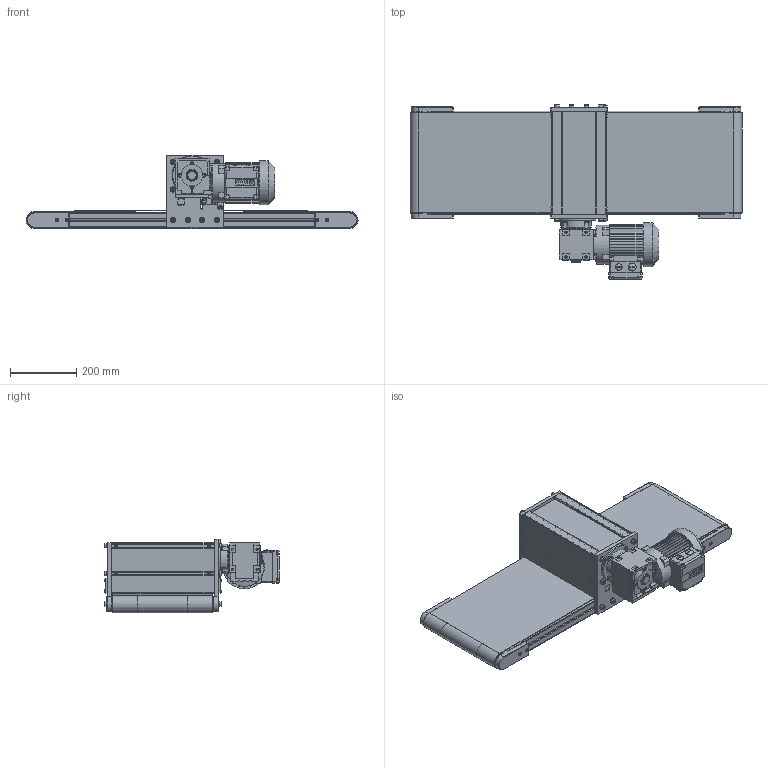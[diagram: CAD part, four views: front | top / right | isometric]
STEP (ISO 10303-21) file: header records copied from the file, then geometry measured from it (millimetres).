
FILE_DESCRIPTION (( 'STEP AP214' ), '1' );
FILE_NAME ('TB52 300X1000 INTERMEDIAIRE SEW.STEP', '2022-10-10T13:04:50', ( '' ), ( '' ), 'SwSTEP 2.0', 'SolidWorks 2022', '' );
FILE_SCHEMA (( 'AUTOMOTIVE_DESIGN' ));
Length unit declared in the file: millimetre
Products named in the file (30): 980-005WAF20; BHC_910-158; CHC THE_910-228; RONDELLE_910-110; TH_910-167; 980-073; 983-001; 982-000; CHC THE_910-053H; WAF20DR63M4 à droite; 905-020; 980-062C; 980-000; CHC THE_910-065H; INTERMEDIAIRE WAF20 TB50; CHC M8X25 + RP8; TUBE TB50 LISSE_980-007L; CHASSIS TB52 INTERMEDIAIRE_Défaut<Brut d''usinage>; 19X30 INTERMEDIAIRE_Défaut[Brut d''usinage]; 982-001B_982-001B-300; TB52 300X1000 INTERMEDIAIRE SEW; 910-010; TUBE TB50_980-007; ECROU_910-148N; 980-064CWAF20; RONDELLE_910-111; 980-006; CLAVETTE_910-212; 982-003; 980-065C
Assembly tree (82 placements, depth 4):
  TB52 300X1000 INTERMEDIAIRE SEW
    CHASSIS TB52 INTERMEDIAIRE_Défaut<Brut d''usinage>
    983-001  x4
      982-000
      982-003
      CHC THE_910-065H
      910-010
    982-001B_982-001B-300  x2
    INTERMEDIAIRE WAF20 TB50
      CHC M8X25 + RP8  x16
        CHC THE_910-053H
        RONDELLE_910-111
      905-020  x4
      CLAVETTE_910-212  x2
      TH_910-167  x4
      980-064CWAF20
      980-065C
      980-073  x2
      BHC_910-158  x12
      CHC THE_910-228  x2
      ECROU_910-148N  x2
      980-006  x2
      980-000  x5
      TUBE TB50_980-007
      TUBE TB50 LISSE_980-007L  x2
      19X30 INTERMEDIAIRE_Défaut[Brut d''usinage]
      980-005WAF20
      RONDELLE_910-110  x4
      980-062C  x3
      WAF20DR63M4 à droite
Bounding box: 1000 x 526.1 x 221 mm (x, y, z)
Volume: 11863652.2 mm3; surface area: 4477550 mm2
Topology: 129 solids, 129 shells, 3060 faces, 7334 edges, 4732 vertices
Faces by surface type: plane 1930, cylinder 657, cone 345, torus 126, sphere 2
Full cylindrical faces by diameter (mm): 4 x12, 5 x20, 5.98 x10, 6 x59, 6.2 x4, 6.4 x4, 6.5 x8, 6.6 x12, 6.8 x8, 7.3 x9, 7.98 x16, 8 x21, 8.2 x16, 8.4 x16, 10 x10, 10.5 x12, 11 x8, 12 x4, 13 x16, 15 x8, 16 x16, 20 x12, 21 x8, 24 x5, 25 x4, 26 x10, 29 x8, 30 x6, 31 x2, 32 x2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
Entity records: 48091 total; most frequent: CARTESIAN_POINT 8577, DIRECTION 7658, ORIENTED_EDGE 7316, EDGE_CURVE 3658, VECTOR 2642, LINE 2642, VERTEX_POINT 2539, AXIS2_PLACEMENT_3D 2508
